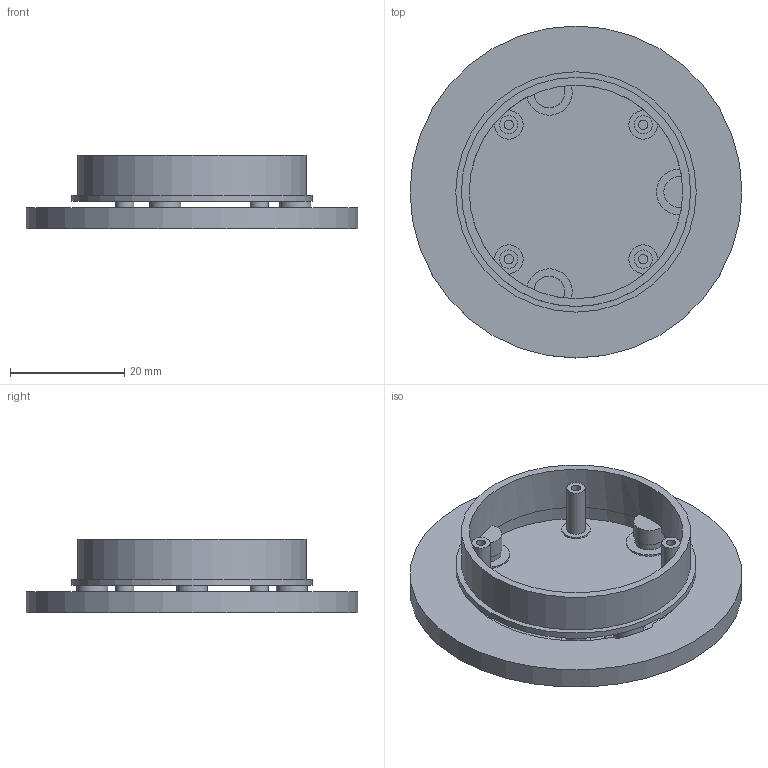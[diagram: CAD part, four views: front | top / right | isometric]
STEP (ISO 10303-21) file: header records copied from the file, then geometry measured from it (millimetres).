
FILE_DESCRIPTION(('Open CASCADE Model'),'2;1');
FILE_NAME('Open CASCADE Shape Model','2026-11-03T18:39:02',('Author'),( 'Open CASCADE'),'Open CASCADE STEP processor 7.9','Open CASCADE 7.9' ,'Unknown');
FILE_SCHEMA(('AUTOMOTIVE_DESIGN { 1 0 10303 214 1 1 1 1 }'));
Length unit declared in the file: millimetre
Products named in the file (1): Open CASCADE STEP translator 7.9 1
Bounding box: 58 x 58 x 12.9 mm (x, y, z)
Volume: 7192.3 mm3; surface area: 10190.4 mm2
Topology: 1 solids, 1 shells, 74 faces, 162 edges, 108 vertices
Faces by surface type: cylinder 39, plane 35
Full cylindrical faces by diameter (mm): 1.6 x4, 3.2 x4, 5 x7, 5.4 x3, 37.3 x1, 40.05 x1, 42 x1, 45.5 x1, 54.3 x1, 58 x1
Entity records: 4309 total; most frequent: CARTESIAN_POINT 1023, DIRECTION 635, ORIENTED_EDGE 324, PCURVE 324, DEFINITIONAL_REPRESENTATION 324, LINE 210, VECTOR 210, AXIS2_PLACEMENT_3D 183
